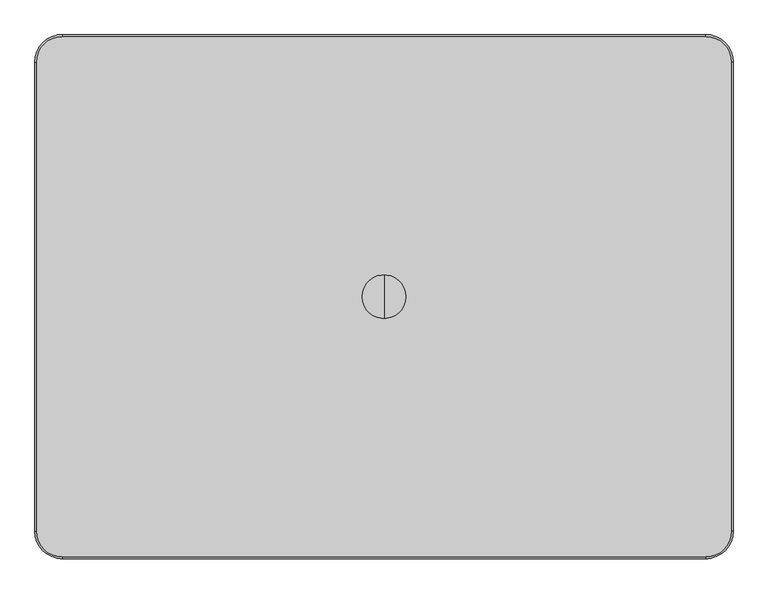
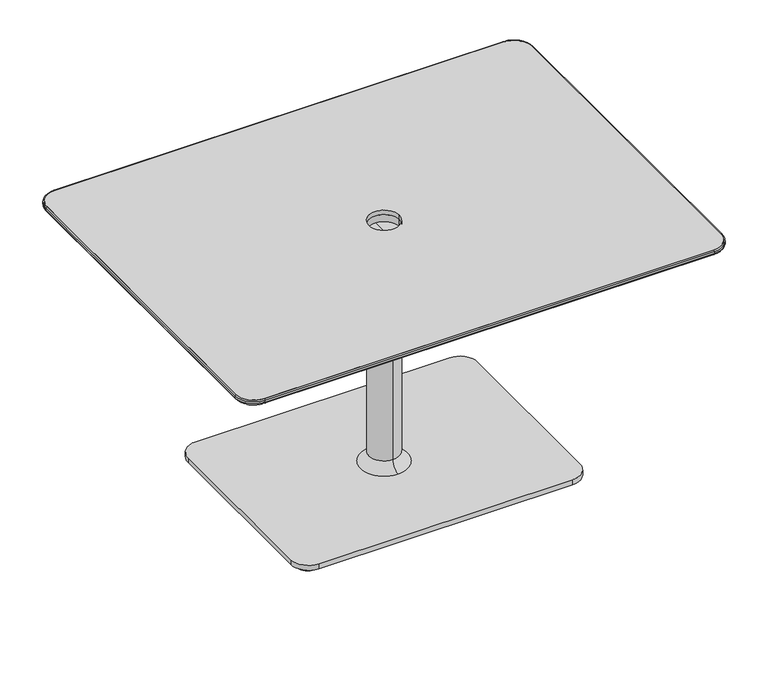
"""IFC4 building model written with IfcOpenShell, lengths in millimetres: furniture geometry, Steelcase Coalesse - Lagunitas - Table - Work (1) : 26H x 36D x 48W."""

from ifc_helpers import new_model, si_unit, point, frame, frame_2d, origin, origin_with_axes, place, context, project, spatial, polyline, circle_curve, ellipse_curve, trimmed, segment, composite_curve, outline, extrude, source, transform, mapped, element, save
from ifc_brep_helpers import plane_surface, cylinder_surface, revolved_surface, spline_surface, advanced_brep


def furniture_4407a506(model_context):
    return source(origin(), model_context, "Body", "SolidModel", [
        advanced_brep(
        [(606.8570059, 409.7063839, 648.3724172), (562.4070059, 454.1563839, 648.3724172), (-561.7969941, 454.1563839, 648.3724172), (-606.2469941, 409.7063839, 648.3724172), (-606.2469941, -409.7063839, 648.3724172), (-561.7969941, -454.1563839, 648.3724172), (562.4070059, -454.1563839, 648.3724172), (606.8570059, -409.7063839, 648.3724172), (38.4050059, 0.0, 648.3724172), (-37.7949941, 0.0, 648.3724172), (539.0389826, 386.3390054, 630.3099277), (539.0389826, -386.3390054, 630.3099277), (-538.4289709, -386.3390054, 630.3099277), (-538.4289709, 386.3390054, 630.3099277), (-37.7949941, 0.0, 630.3099277), (38.4050059, 0.0, 630.3099277)],
        [
            (0, 1, circle_curve(frame((562.4070059, 409.7063839, 648.3724172), z_axis=(0.0, 0.0, 1.0), x_axis=(1.0, 0.0, 0.0)), 44.45)),
            (1, 2),
            (2, 3, circle_curve(frame((-561.7969941, 409.7063839, 648.3724172), z_axis=(0.0, 0.0, 1.0), x_axis=(1.0, 0.0, 0.0)), 44.45)),
            (3, 4),
            (4, 5, circle_curve(frame((-561.7969941, -409.7063839, 648.3724172), z_axis=(0.0, 0.0, 1.0), x_axis=(1.0, 0.0, 0.0)), 44.45)),
            (5, 6),
            (6, 7, circle_curve(frame((562.4070059, -409.7063839, 648.3724172), z_axis=(0.0, 0.0, 1.0), x_axis=(1.0, 0.0, 0.0)), 44.45)),
            (7, 0),
            (8, 9, circle_curve(frame((0.3050059, 0.0, 648.3724172), z_axis=(0.0, 0.0, -1.0), x_axis=(1.0, 0.0, 0.0)), 38.1)),
            (9, 8, circle_curve(frame((0.3050059, 0.0, 648.3724172), z_axis=(0.0, 0.0, -1.0), x_axis=(1.0, 0.0, 0.0)), 38.1)),
            (10, 11),
            (11, 12),
            (12, 13),
            (13, 10),
            (14, 15, circle_curve(frame((0.3050059, 0.0, 630.3099277), z_axis=(0.0, 0.0, 1.0), x_axis=(1.0, 0.0, 0.0)), 38.1)),
            (15, 14, circle_curve(frame((0.3050059, 0.0, 630.3099277), z_axis=(0.0, 0.0, 1.0), x_axis=(1.0, 0.0, 0.0)), 38.1)),
            (0, 10),
            (10, 1),
            (13, 2),
            (13, 3),
            (12, 4),
            (12, 5),
            (11, 6),
            (11, 7),
            (14, 9),
            (8, 15),
        ],
        [
            plane_surface(frame((0.3050059, 0.0, 648.3724172), z_axis=(0.0, 0.0, 1.0), x_axis=(-1.0, 0.0, 0.0))),
            plane_surface(frame((0.3050059, 0.0, 630.3099277), z_axis=(0.0, 0.0, -1.0), x_axis=(-1.0, 0.0, 0.0))),
            spline_surface(2, 1, [[(539.0389826, 386.3390054, 630.3099277), (606.8570059, 409.7063839, 648.3724172)], [(539.0389826, 386.3390054, 630.3099277), (606.8570059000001, 454.15638390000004, 648.3724172)], [(539.0389826, 386.3390054, 630.3099277), (562.4070059, 454.1563839, 648.3724172)]], [3, 3], [2, 2], [0.0, 1.0], [0.0, 1.0], weights=[[1.0, 1.0], [0.7071067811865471, 0.7071067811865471], [1.0, 1.0]]),
            plane_surface(frame((0.3050059, 386.3390054, 630.3099277), z_axis=(0.0, 0.2573680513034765, -0.9663134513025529), x_axis=(-1.0, 0.0, 0.0))),
            spline_surface(2, 1, [[(-538.4289709, 386.3390054, 630.3099277), (-561.7969941, 454.1563839, 648.3724172)], [(-538.4289709, 386.3390054, 630.3099277), (-606.2469940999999, 454.1563838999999, 648.3724172)], [(-538.4289709, 386.3390054, 630.3099277), (-606.2469941, 409.7063839, 648.3724172)]], [3, 3], [2, 2], [0.0, 1.0], [0.0, 1.0], weights=[[1.0, 1.0], [0.707106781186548, 0.707106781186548], [1.0, 1.0]]),
            plane_surface(frame((-538.4289709, 0.0, 630.3099277), z_axis=(-0.2573657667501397, 0.0, -0.966314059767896), x_axis=(0.0, -1.0, 0.0))),
            spline_surface(2, 1, [[(-538.4289709, -386.3390054, 630.3099277), (-606.2469941, -409.7063839, 648.3724172)], [(-538.4289709, -386.3390054, 630.3099277), (-606.2469941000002, -454.15638390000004, 648.3724172)], [(-538.4289709, -386.3390054, 630.3099277), (-561.7969941, -454.1563839, 648.3724172)]], [3, 3], [2, 2], [0.0, 1.0], [0.0, 1.0], weights=[[1.0, 1.0], [0.7071067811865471, 0.7071067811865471], [1.0, 1.0]]),
            plane_surface(frame((0.3050059, -386.3390054, 630.3099277), z_axis=(0.0, -0.2573680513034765, -0.9663134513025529), x_axis=(1.0, 0.0, 0.0))),
            spline_surface(2, 1, [[(539.0389826, -386.3390054, 630.3099277), (562.4070059, -454.1563839, 648.3724172)], [(539.0389826, -386.3390054, 630.3099277), (606.8570058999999, -454.1563838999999, 648.3724172)], [(539.0389826, -386.3390054, 630.3099277), (606.8570059, -409.7063839, 648.3724172)]], [3, 3], [2, 2], [0.0, 1.0], [0.0, 1.0], weights=[[1.0, 1.0], [0.707106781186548, 0.707106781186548], [1.0, 1.0]]),
            plane_surface(frame((539.0389826, 0.0, 630.3099277), z_axis=(0.2573657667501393, 0.0, -0.9663140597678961), x_axis=(0.0, 1.0, 0.0))),
            revolved_surface(polyline([(38.4050059, 0.0, 648.3724172), (38.4050059, 0.0, 630.3099277)]), (0.3050059, 0.0, 622.3), (0.0, 0.0, 1.0)),
        ],
        [
            (0, [[1, 2, 3, 4, 5, 6, 7, 8], [9, 10]]),
            (1, [[11, 12, 13, 14], [15, 16]]),
            (2, [[-1, 17, 18]]),
            (3, [[-2, -18, -14, 19]]),
            (4, [[-3, -19, 20]]),
            (5, [[-4, -20, -13, 21]]),
            (6, [[-5, -21, 22]]),
            (7, [[-6, -22, -12, 23]]),
            (8, [[-7, -23, 24]]),
            (9, [[-8, -24, -11, -17]]),
            (10, [[25, -9, 26, -15]]),
            (10, [[-25, -16, -26, -10]]),
        ],
    ),
        extrude(outline(composite_curve([segment(trimmed(circle_curve(frame_2d((562.4070059, 409.7063839)), 44.45), [point((562.4070059, 454.1563839))], [point((606.8570059, 409.7063839))], False, "CARTESIAN"), True, "CONTINUOUS"), segment(polyline([(606.8570059, 409.7063839), (606.8570059, -409.7063839)]), True, "CONTINUOUS"), segment(trimmed(circle_curve(frame_2d((562.4070059, -409.7063839)), 44.45), [point((606.8570059, -409.7063839))], [point((562.4070059, -454.1563839))], False, "CARTESIAN"), True, "CONTINUOUS"), segment(polyline([(562.4070059, -454.1563839), (-561.7969941, -454.1563839)]), True, "CONTINUOUS"), segment(trimmed(circle_curve(frame_2d((-561.7969941, -409.7063839)), 44.45), [point((-561.7969941, -454.1563839))], [point((-606.2469941, -409.7063839))], False, "CARTESIAN"), True, "CONTINUOUS"), segment(polyline([(-606.2469941, -409.7063839), (-606.2469941, 409.7063839)]), True, "CONTINUOUS"), segment(trimmed(circle_curve(frame_2d((-561.7969941, 409.7063839)), 44.45), [point((-606.2469941, 409.7063839))], [point((-561.7969941, 454.1563839))], False, "CARTESIAN"), True, "CONTINUOUS"), segment(polyline([(-561.7969941, 454.1563839), (562.4070059, 454.1563839)]), True, "CONTINUOUS")], self_intersect=False), holes=[composite_curve([segment(trimmed(circle_curve(frame_2d((0.3050059, 0.0)), 38.1), [point((-37.7949941, 0.0))], [point((38.4050059, 0.0))], True, "CARTESIAN"), True, "CONTINUOUS"), segment(trimmed(circle_curve(frame_2d((0.3050059, 0.0)), 38.1), [point((38.4050059, 0.0))], [point((-37.7949941, 0.0))], True, "CARTESIAN"), True, "CONTINUOUS")], self_intersect=False)]), frame((0.0, 0.0, 648.3724172), z_axis=(0.0, 0.0, 1.0), x_axis=(1.0, 0.0, 0.0)), (0.0, 0.0, 1.0), 12.0275828),
        extrude(outline(composite_curve([segment(trimmed(circle_curve(frame_2d((-321.7443146, 226.8029495)), 25.4), [point((-347.1443146, 226.8029495))], [point((-296.3443146, 226.8029495))], False, "CARTESIAN"), True, "CONTINUOUS"), segment(trimmed(circle_curve(frame_2d((-321.7443146, 226.8029495)), 25.4), [point((-296.3443146, 226.8029495))], [point((-347.1443146, 226.8029495))], False, "CARTESIAN"), True, "CONTINUOUS")], self_intersect=False)), origin_with_axes(), (0.0, 0.0, 1.0), 10.6571495),
        extrude(outline(composite_curve([segment(trimmed(circle_curve(frame_2d((322.3543263, 226.8029495)), 25.4), [point((296.9543263, 226.8029495))], [point((347.7543263, 226.8029495))], False, "CARTESIAN"), True, "CONTINUOUS"), segment(trimmed(circle_curve(frame_2d((322.3543263, 226.8029495)), 25.4), [point((347.7543263, 226.8029495))], [point((296.9543263, 226.8029495))], False, "CARTESIAN"), True, "CONTINUOUS")], self_intersect=False)), origin_with_axes(), (0.0, 0.0, 1.0), 10.6571495),
        extrude(outline(composite_curve([segment(trimmed(circle_curve(frame_2d((322.3543263, -226.8029495)), 25.4), [point((296.9543263, -226.8029495))], [point((347.7543263, -226.8029495))], False, "CARTESIAN"), True, "CONTINUOUS"), segment(trimmed(circle_curve(frame_2d((322.3543263, -226.8029495)), 25.4), [point((347.7543263, -226.8029495))], [point((296.9543263, -226.8029495))], False, "CARTESIAN"), True, "CONTINUOUS")], self_intersect=False)), origin_with_axes(), (0.0, 0.0, 1.0), 10.6571495),
        extrude(outline(composite_curve([segment(trimmed(circle_curve(frame_2d((-321.7443146, -226.8029495)), 25.4), [point((-347.1443146, -226.8029495))], [point((-296.3443146, -226.8029495))], False, "CARTESIAN"), True, "CONTINUOUS"), segment(trimmed(circle_curve(frame_2d((-321.7443146, -226.8029495)), 25.4), [point((-296.3443146, -226.8029495))], [point((-347.1443146, -226.8029495))], False, "CARTESIAN"), True, "CONTINUOUS")], self_intersect=False)), origin_with_axes(), (0.0, 0.0, 1.0), 10.6571495),
        extrude(outline(composite_curve([segment(trimmed(circle_curve(frame_2d((317.8050059, 222.2481833)), 44.45), [point((317.8050059, 266.6981833))], [point((362.2550059, 222.2481833))], False, "CARTESIAN"), True, "CONTINUOUS"), segment(polyline([(362.2550059, 222.2481833), (362.2550059, -222.2481833)]), True, "CONTINUOUS"), segment(trimmed(circle_curve(frame_2d((317.8050059, -222.2481833)), 44.45), [point((362.2550059, -222.2481833))], [point((317.8050059, -266.6981833))], False, "CARTESIAN"), True, "CONTINUOUS"), segment(polyline([(317.8050059, -266.6981833), (-317.1949941, -266.6981833)]), True, "CONTINUOUS"), segment(trimmed(circle_curve(frame_2d((-317.1949941, -222.2481833)), 44.45), [point((-317.1949941, -266.6981833))], [point((-361.6449941, -222.2481833))], False, "CARTESIAN"), True, "CONTINUOUS"), segment(polyline([(-361.6449941, -222.2481833), (-361.6449941, 222.2481833)]), True, "CONTINUOUS"), segment(trimmed(circle_curve(frame_2d((-317.1949941, 222.2481833)), 44.45), [point((-361.6449941, 222.2481833))], [point((-317.1949941, 266.6981833))], False, "CARTESIAN"), True, "CONTINUOUS"), segment(polyline([(-317.1949941, 266.6981833), (317.8050059, 266.6981833)]), True, "CONTINUOUS")], self_intersect=False)), frame((0.0, 0.0, 10.6571495), z_axis=(0.0, 0.0, 1.0), x_axis=(1.0, 0.0, 0.0)), (0.0, 0.0, 1.0), 12.7000004),
        advanced_brep(
        [(-609.2930954, 409.7063839, 652.1656816), (-561.7969941, 457.2024852, 652.1656816), (-561.7969941, 454.1563839, 648.3724172), (-606.2469941, 409.7063839, 648.3724172), (-609.2930954, 409.7063839, 657.3538988), (-561.7969941, 457.2024852, 657.3538988), (-606.2469941, 409.7063839, 660.4), (-561.7969941, 454.1563839, 660.4), (-606.2469941, -409.7063839, 648.3724172), (-609.2930954, -409.7063839, 652.1656816), (-609.2930954, -409.7063839, 657.3538988), (-606.2469941, -409.7063839, 660.4), (-561.7969941, -457.2024852, 652.1656816), (-561.7969941, -454.1563839, 648.3724172), (-561.7969941, -457.2024852, 657.3538988), (-561.7969941, -454.1563839, 660.4), (562.4070059, -454.1563839, 648.3724172), (562.4070059, -457.2024852, 652.1656816), (562.4070059, -457.2024852, 657.3538988), (562.4070059, -454.1563839, 660.4), (609.9031071, -409.7063839, 652.1656816), (606.8570059, -409.7063839, 648.3724172), (609.9031071, -409.7063839, 657.3538988), (606.8570059, -409.7063839, 660.4), (606.8570059, 409.7063839, 648.3724172), (609.9031071, 409.7063839, 652.1656816), (609.9031071, 409.7063839, 657.3538988), (606.8570059, 409.7063839, 660.4), (562.4070059, 457.2024852, 652.1656816), (562.4070059, 454.1563839, 648.3724172), (562.4070059, 457.2024852, 657.3538988), (562.4070059, 454.1563839, 660.4)],
        [
            (0, 1, circle_curve(frame((-561.7969941, 409.7063839, 652.1656816), z_axis=(0.0, 0.0, -1.0), x_axis=(0.0, 1.0, 0.0)), 47.4961012)),
            (1, 2, circle_curve(frame((-561.7969941, 453.3175869, 652.1656816), z_axis=(-1.0, 0.0, 0.0), x_axis=(0.0, -1.0, 0.0)), 3.8848983)),
            (2, 3, circle_curve(frame((-561.7969941, 409.7063839, 648.3724172), z_axis=(0.0, 0.0, 1.0), x_axis=(0.0, 1.0, 0.0)), 44.45)),
            (3, 0, circle_curve(frame((-605.4081971, 409.7063839, 652.1656816), z_axis=(0.0, 1.0, 0.0), x_axis=(1.0, 0.0, 0.0)), 3.8848983)),
            (4, 5, circle_curve(frame((-561.7969941, 409.7063839, 657.3538988), z_axis=(0.0, 0.0, -1.0), x_axis=(0.0, 1.0, 0.0)), 47.4961012)),
            (5, 1),
            (0, 4),
            (6, 7, circle_curve(frame((-561.7969941, 409.7063839, 660.4), z_axis=(0.0, 0.0, -1.0), x_axis=(0.0, 1.0, 0.0)), 44.45)),
            (7, 5, circle_curve(frame((-561.7969941, 454.1563839, 657.3538988), z_axis=(-1.0, 0.0, 0.0), x_axis=(0.0, -1.0, 0.0)), 3.0461012)),
            (4, 6, circle_curve(frame((-606.2469941, 409.7063839, 657.3538988), z_axis=(0.0, 1.0, 0.0), x_axis=(1.0, 0.0, 0.0)), 3.0461012)),
            (2, 7),
            (6, 3),
            (3, 8),
            (8, 9, circle_curve(frame((-605.4081971, -409.7063839, 652.1656816), z_axis=(0.0, 1.0, 0.0), x_axis=(1.0, 0.0, 0.0)), 3.8848983)),
            (9, 0),
            (9, 10),
            (10, 4),
            (10, 11, circle_curve(frame((-606.2469941, -409.7063839, 657.3538988), z_axis=(0.0, 1.0, 0.0), x_axis=(1.0, 0.0, 0.0)), 3.0461012)),
            (11, 6),
            (11, 8),
            (12, 9, circle_curve(frame((-561.7969941, -409.7063839, 652.1656816), z_axis=(0.0, 0.0, -1.0), x_axis=(-1.0, 0.0, 0.0)), 47.4961012)),
            (8, 13, circle_curve(frame((-561.7969941, -409.7063839, 648.3724172), z_axis=(0.0, 0.0, 1.0), x_axis=(-1.0, 0.0, 0.0)), 44.45)),
            (13, 12, circle_curve(frame((-561.7969941, -453.3175869, 652.1656816), z_axis=(-1.0, 0.0, 0.0), x_axis=(0.0, 1.0, 0.0)), 3.8848983)),
            (14, 10, circle_curve(frame((-561.7969941, -409.7063839, 657.3538988), z_axis=(0.0, 0.0, -1.0), x_axis=(-1.0, 0.0, 0.0)), 47.4961012)),
            (12, 14),
            (15, 11, circle_curve(frame((-561.7969941, -409.7063839, 660.4), z_axis=(0.0, 0.0, -1.0), x_axis=(-1.0, 0.0, 0.0)), 44.45)),
            (14, 15, circle_curve(frame((-561.7969941, -454.1563839, 657.3538988), z_axis=(-1.0, 0.0, 0.0), x_axis=(0.0, 1.0, 0.0)), 3.0461012)),
            (15, 13),
            (13, 16),
            (16, 17, circle_curve(frame((562.4070059, -453.3175869, 652.1656816), z_axis=(-1.0, 0.0, 0.0), x_axis=(0.0, 1.0, 0.0)), 3.8848983)),
            (17, 12),
            (17, 18),
            (18, 14),
            (18, 19, circle_curve(frame((562.4070059, -454.1563839, 657.3538988), z_axis=(-1.0, 0.0, 0.0), x_axis=(0.0, 1.0, 0.0)), 3.0461012)),
            (19, 15),
            (19, 16),
            (20, 17, circle_curve(frame((562.4070059, -409.7063839, 652.1656816), z_axis=(0.0, 0.0, -1.0), x_axis=(0.0, -1.0, 0.0)), 47.4961012)),
            (16, 21, circle_curve(frame((562.4070059, -409.7063839, 648.3724172), z_axis=(0.0, 0.0, 1.0), x_axis=(0.0, -1.0, 0.0)), 44.45)),
            (21, 20, circle_curve(frame((606.0182088, -409.7063839, 652.1656816), z_axis=(0.0, -1.0, 0.0), x_axis=(-1.0, 0.0, 0.0)), 3.8848983)),
            (22, 18, circle_curve(frame((562.4070059, -409.7063839, 657.3538988), z_axis=(0.0, 0.0, -1.0), x_axis=(0.0, -1.0, 0.0)), 47.4961012)),
            (20, 22),
            (23, 19, circle_curve(frame((562.4070059, -409.7063839, 660.4), z_axis=(0.0, 0.0, -1.0), x_axis=(0.0, -1.0, 0.0)), 44.45)),
            (22, 23, circle_curve(frame((606.8570059, -409.7063839, 657.3538988), z_axis=(0.0, -1.0, 0.0), x_axis=(-1.0, 0.0, 0.0)), 3.0461012)),
            (23, 21),
            (21, 24),
            (24, 25, circle_curve(frame((606.0182088, 409.7063839, 652.1656816), z_axis=(0.0, -1.0, 0.0), x_axis=(-1.0, 0.0, 0.0)), 3.8848983)),
            (25, 20),
            (25, 26),
            (26, 22),
            (26, 27, circle_curve(frame((606.8570059, 409.7063839, 657.3538988), z_axis=(0.0, -1.0, 0.0), x_axis=(-1.0, 0.0, 0.0)), 3.0461012)),
            (27, 23),
            (27, 24),
            (28, 25, circle_curve(frame((562.4070059, 409.7063839, 652.1656816), z_axis=(0.0, 0.0, -1.0), x_axis=(1.0, 0.0, 0.0)), 47.4961012)),
            (24, 29, circle_curve(frame((562.4070059, 409.7063839, 648.3724172), z_axis=(0.0, 0.0, 1.0), x_axis=(1.0, 0.0, 0.0)), 44.45)),
            (29, 28, circle_curve(frame((562.4070059, 453.3175869, 652.1656816), z_axis=(1.0, 0.0, 0.0), x_axis=(0.0, -1.0, 0.0)), 3.8848983)),
            (30, 26, circle_curve(frame((562.4070059, 409.7063839, 657.3538988), z_axis=(0.0, 0.0, -1.0), x_axis=(1.0, 0.0, 0.0)), 47.4961012)),
            (28, 30),
            (31, 27, circle_curve(frame((562.4070059, 409.7063839, 660.4), z_axis=(0.0, 0.0, -1.0), x_axis=(1.0, 0.0, 0.0)), 44.45)),
            (30, 31, circle_curve(frame((562.4070059, 454.1563839, 657.3538988), z_axis=(1.0, 0.0, 0.0), x_axis=(0.0, -1.0, 0.0)), 3.0461012)),
            (31, 29),
            (29, 2),
            (1, 28),
            (5, 30),
            (7, 31),
        ],
        [
            revolved_surface(trimmed(ellipse_curve(frame((-561.7969941, 453.3175869, 652.1656816), z_axis=(1.0, 0.0, 0.0), x_axis=(0.0, -1.0, 0.0)), 3.8848983, 3.8848983), [point((-561.7969941, 454.1563839, 648.3724172))], [point((-561.7969941, 457.2024852, 652.1656816))], True, "CARTESIAN"), (-561.7969941, 409.7063839, 0.0), (0.0, 0.0, 1.0)),
            cylinder_surface(frame((-561.7969941, 409.7063839, 0.0), z_axis=(0.0, 0.0, 1.0), x_axis=(0.0, 1.0, 0.0)), 47.4961012),
            revolved_surface(trimmed(ellipse_curve(frame((-561.7969941, 454.1563839, 657.3538988), z_axis=(1.0, 0.0, 0.0), x_axis=(0.0, -1.0, 0.0)), 3.0461012, 3.0461012), [point((-561.7969941, 457.2024852, 657.3538988))], [point((-561.7969941, 454.1563839, 660.4))], True, "CARTESIAN"), (-561.7969941, 409.7063839, 0.0), (0.0, 0.0, 1.0)),
            revolved_surface(polyline([(-561.7969941, 454.1563839, 660.4), (-561.7969941, 454.1563839, 648.3724172)]), (-561.7969941, 409.7063839, 0.0), (0.0, 0.0, 1.0)),
            cylinder_surface(frame((-605.4081971, 409.7063839, 652.1656816), z_axis=(0.0, 1.0, 0.0), x_axis=(1.0, 0.0, 0.0)), 3.8848983),
            plane_surface(frame((-609.2930954, 409.7063839, 652.1656816), z_axis=(-1.0, 0.0, 0.0), x_axis=(0.0, -1.0, 0.0))),
            cylinder_surface(frame((-606.2469941, 409.7063839, 657.3538988), z_axis=(0.0, 1.0, 0.0), x_axis=(1.0, 0.0, 0.0)), 3.0461012),
            plane_surface(frame((-606.2469941, 409.7063839, 660.4), z_axis=(1.0, 0.0, 0.0), x_axis=(0.0, -1.0, 0.0))),
            revolved_surface(trimmed(ellipse_curve(frame((-605.4081971, -409.7063839, 652.1656816), z_axis=(0.0, 1.0, 0.0), x_axis=(1.0, 0.0, 0.0)), 3.8848983, 3.8848983), [point((-606.2469941, -409.7063839, 648.3724172))], [point((-609.2930954, -409.7063839, 652.1656816))], True, "CARTESIAN"), (-561.7969941, -409.7063839, 0.0), (0.0, 0.0, 1.0)),
            cylinder_surface(frame((-561.7969941, -409.7063839, 0.0), z_axis=(0.0, 0.0, 1.0), x_axis=(-1.0, 0.0, 0.0)), 47.4961012),
            revolved_surface(trimmed(ellipse_curve(frame((-606.2469941, -409.7063839, 657.3538988), z_axis=(0.0, 1.0, 0.0), x_axis=(1.0, 0.0, 0.0)), 3.0461012, 3.0461012), [point((-609.2930954, -409.7063839, 657.3538988))], [point((-606.2469941, -409.7063839, 660.4))], True, "CARTESIAN"), (-561.7969941, -409.7063839, 0.0), (0.0, 0.0, 1.0)),
            revolved_surface(polyline([(-606.2469941, -409.7063839, 660.4), (-606.2469941, -409.7063839, 648.3724172)]), (-561.7969941, -409.7063839, 0.0), (0.0, 0.0, 1.0)),
            cylinder_surface(frame((-561.7969941, -453.3175869, 652.1656816), z_axis=(-1.0, 0.0, 0.0), x_axis=(0.0, 1.0, 0.0)), 3.8848983),
            plane_surface(frame((-561.7969941, -457.2024852, 652.1656816), z_axis=(0.0, -1.0, 0.0), x_axis=(1.0, 0.0, 0.0))),
            cylinder_surface(frame((-561.7969941, -454.1563839, 657.3538988), z_axis=(-1.0, 0.0, 0.0), x_axis=(0.0, 1.0, 0.0)), 3.0461012),
            plane_surface(frame((-561.7969941, -454.1563839, 660.4), z_axis=(0.0, 1.0, 0.0), x_axis=(1.0, 0.0, 0.0))),
            revolved_surface(trimmed(ellipse_curve(frame((562.4070059, -453.3175869, 652.1656816), z_axis=(-1.0, 0.0, 0.0), x_axis=(0.0, 1.0, 0.0)), 3.8848983, 3.8848983), [point((562.4070059, -454.1563839, 648.3724172))], [point((562.4070059, -457.2024852, 652.1656816))], True, "CARTESIAN"), (562.4070059, -409.7063839, 0.0), (0.0, 0.0, 1.0)),
            cylinder_surface(frame((562.4070059, -409.7063839, 0.0), z_axis=(0.0, 0.0, 1.0), x_axis=(0.0, -1.0, 0.0)), 47.4961012),
            revolved_surface(trimmed(ellipse_curve(frame((562.4070059, -454.1563839, 657.3538988), z_axis=(-1.0, 0.0, 0.0), x_axis=(0.0, 1.0, 0.0)), 3.0461012, 3.0461012), [point((562.4070059, -457.2024852, 657.3538988))], [point((562.4070059, -454.1563839, 660.4))], True, "CARTESIAN"), (562.4070059, -409.7063839, 0.0), (0.0, 0.0, 1.0)),
            revolved_surface(polyline([(562.4070059, -454.1563839, 660.4), (562.4070059, -454.1563839, 648.3724172)]), (562.4070059, -409.7063839, 0.0), (0.0, 0.0, 1.0)),
            cylinder_surface(frame((606.0182088, -409.7063839, 652.1656816), z_axis=(0.0, -1.0, 0.0), x_axis=(-1.0, 0.0, 0.0)), 3.8848983),
            plane_surface(frame((609.9031071, -409.7063839, 652.1656816), z_axis=(1.0, 0.0, 0.0), x_axis=(0.0, 1.0, 0.0))),
            cylinder_surface(frame((606.8570059, -409.7063839, 657.3538988), z_axis=(0.0, -1.0, 0.0), x_axis=(-1.0, 0.0, 0.0)), 3.0461012),
            plane_surface(frame((606.8570059, -409.7063839, 660.4), z_axis=(-1.0, 0.0, 0.0), x_axis=(0.0, 1.0, 0.0))),
            revolved_surface(trimmed(ellipse_curve(frame((606.0182088, 409.7063839, 652.1656816), z_axis=(0.0, -1.0, 0.0), x_axis=(-1.0, 0.0, 0.0)), 3.8848983, 3.8848983), [point((606.8570059, 409.7063839, 648.3724172))], [point((609.9031071, 409.7063839, 652.1656816))], True, "CARTESIAN"), (562.4070059, 409.7063839, 0.0), (0.0, 0.0, 1.0)),
            cylinder_surface(frame((562.4070059, 409.7063839, 0.0), z_axis=(0.0, 0.0, 1.0), x_axis=(1.0, 0.0, 0.0)), 47.4961012),
            revolved_surface(trimmed(ellipse_curve(frame((606.8570059, 409.7063839, 657.3538988), z_axis=(0.0, -1.0, 0.0), x_axis=(-1.0, 0.0, 0.0)), 3.0461012, 3.0461012), [point((609.9031071, 409.7063839, 657.3538988))], [point((606.8570059, 409.7063839, 660.4))], True, "CARTESIAN"), (562.4070059, 409.7063839, 0.0), (0.0, 0.0, 1.0)),
            revolved_surface(polyline([(606.8570059, 409.7063839, 660.4), (606.8570059, 409.7063839, 648.3724172)]), (562.4070059, 409.7063839, 0.0), (0.0, 0.0, 1.0)),
            cylinder_surface(frame((562.4070059, 453.3175869, 652.1656816), z_axis=(1.0, 0.0, 0.0), x_axis=(0.0, -1.0, 0.0)), 3.8848983),
            plane_surface(frame((562.4070059, 457.2024852, 652.1656816), z_axis=(0.0, 1.0, 0.0), x_axis=(-1.0, 0.0, 0.0))),
            cylinder_surface(frame((562.4070059, 454.1563839, 657.3538988), z_axis=(1.0, 0.0, 0.0), x_axis=(0.0, -1.0, 0.0)), 3.0461012),
            plane_surface(frame((562.4070059, 454.1563839, 660.4), z_axis=(0.0, -1.0, 0.0), x_axis=(-1.0, 0.0, 0.0))),
        ],
        [
            (0, [[1, 2, 3, 4]]),
            (1, [[5, 6, -1, 7]]),
            (2, [[8, 9, -5, 10]]),
            (3, [[-3, 11, -8, 12]]),
            (4, [[-4, 13, 14, 15]]),
            (5, [[-7, -15, 16, 17]]),
            (6, [[-10, -17, 18, 19]]),
            (7, [[-12, -19, 20, -13]]),
            (8, [[21, -14, 22, 23]]),
            (9, [[24, -16, -21, 25]]),
            (10, [[26, -18, -24, 27]]),
            (11, [[-22, -20, -26, 28]]),
            (12, [[-23, 29, 30, 31]]),
            (13, [[-25, -31, 32, 33]]),
            (14, [[-27, -33, 34, 35]]),
            (15, [[-28, -35, 36, -29]]),
            (16, [[37, -30, 38, 39]]),
            (17, [[40, -32, -37, 41]]),
            (18, [[42, -34, -40, 43]]),
            (19, [[-38, -36, -42, 44]]),
            (20, [[-39, 45, 46, 47]]),
            (21, [[-41, -47, 48, 49]]),
            (22, [[-43, -49, 50, 51]]),
            (23, [[-44, -51, 52, -45]]),
            (24, [[53, -46, 54, 55]]),
            (25, [[56, -48, -53, 57]]),
            (26, [[58, -50, -56, 59]]),
            (27, [[-54, -52, -58, 60]]),
            (28, [[-55, 61, -2, 62]]),
            (29, [[-57, -62, -6, 63]]),
            (30, [[-59, -63, -9, 64]]),
            (31, [[-60, -64, -11, -61]]),
        ],
    ),
        advanced_brep(
        [(0.3050059, -37.9287895, 500.8567695), (0.3050059, 37.9287895, 500.8567695), (0.3050059, 37.9287895, 50.0429711), (0.3050059, -37.9287895, 50.0429711), (0.3050059, -59.3395816, 538.8698908), (0.3050059, 59.3395816, 538.8698908), (0.3050059, -197.9068019, 622.8534968), (0.3050059, 197.9068019, 622.8534968), (0.3050059, -212.4265152, 626.9101307), (0.3050059, 212.4265152, 626.9101307), (0.3050059, -226.4292749, 626.9101307), (0.3050059, 226.4292749, 626.9101307), (0.3050059, -228.4774392, 630.3099277), (0.3050059, 228.4774392, 630.3099277), (0.3050059, 0.0, 630.3099277), (0.3050059, -60.2304855, 23.3571499), (0.3050059, 60.2304855, 23.3571499), (0.3050059, 0.0, 23.3571499)],
        [
            (0, 1, circle_curve(frame((0.3050059, 0.0, 500.8567695), z_axis=(0.0, 0.0, -1.0), x_axis=(0.0, 1.0, 0.0)), 37.9287895)),
            (1, 2),
            (2, 3, circle_curve(frame((0.3050059, 0.0, 50.0429711), z_axis=(0.0, 0.0, 1.0), x_axis=(0.0, 1.0, 0.0)), 37.9287895)),
            (3, 0),
            (1, 0, circle_curve(frame((0.3050059, 0.0, 500.8567695), z_axis=(0.0, 0.0, -1.0), x_axis=(0.0, 1.0, 0.0)), 37.9287895)),
            (3, 2, circle_curve(frame((0.3050059, 0.0, 50.0429711), z_axis=(0.0, 0.0, 1.0), x_axis=(0.0, 1.0, 0.0)), 37.9287895)),
            (4, 5, circle_curve(frame((0.3050059, 0.0, 538.8698908), z_axis=(0.0, 0.0, -1.0), x_axis=(0.0, 1.0, 0.0)), 59.3395816)),
            (5, 1, circle_curve(frame((0.3050059, 82.3787895, 500.8567695), z_axis=(1.0, 0.0, 0.0), x_axis=(0.0, 1.0, 0.0)), 44.45)),
            (0, 4, circle_curve(frame((0.3050059, -82.3787895, 500.8567695), z_axis=(1.0, 0.0, 0.0), x_axis=(0.0, -1.0, 0.0)), 44.45)),
            (5, 4, circle_curve(frame((0.3050059, 0.0, 538.8698908), z_axis=(0.0, 0.0, -1.0), x_axis=(0.0, 1.0, 0.0)), 59.3395816)),
            (6, 7, circle_curve(frame((0.3050059, 0.0, 622.8534968), z_axis=(0.0, 0.0, -1.0), x_axis=(0.0, 1.0, 0.0)), 197.9068019)),
            (7, 5),
            (4, 6),
            (7, 6, circle_curve(frame((0.3050059, 0.0, 622.8534968), z_axis=(0.0, 0.0, -1.0), x_axis=(0.0, 1.0, 0.0)), 197.9068019)),
            (8, 9, circle_curve(frame((0.3050059, 0.0, 626.9101307), z_axis=(0.0, 0.0, -1.0), x_axis=(0.0, 1.0, 0.0)), 212.4265152)),
            (9, 7, circle_curve(frame((0.3050059, 212.4265152, 598.8969605), z_axis=(1.0, 0.0, 0.0), x_axis=(0.0, 1.0, 0.0)), 28.0131702)),
            (6, 8, circle_curve(frame((0.3050059, -212.4265152, 598.8969605), z_axis=(1.0, 0.0, 0.0), x_axis=(0.0, -1.0, 0.0)), 28.0131702)),
            (9, 8, circle_curve(frame((0.3050059, 0.0, 626.9101307), z_axis=(0.0, 0.0, -1.0), x_axis=(0.0, 1.0, 0.0)), 212.4265152)),
            (10, 11, circle_curve(frame((0.3050059, 0.0, 626.9101307), z_axis=(0.0, 0.0, -1.0), x_axis=(0.0, 1.0, 0.0)), 226.4292749)),
            (11, 9),
            (8, 10),
            (11, 10, circle_curve(frame((0.3050059, 0.0, 626.9101307), z_axis=(0.0, 0.0, -1.0), x_axis=(0.0, 1.0, 0.0)), 226.4292749)),
            (12, 13, circle_curve(frame((0.3050059, 0.0, 630.3099277), z_axis=(0.0, 0.0, -1.0), x_axis=(0.0, 1.0, 0.0)), 228.4774392)),
            (13, 11, circle_curve(frame((0.3050059, 226.4292749, 629.2269744), z_axis=(-1.0, 0.0, 0.0), x_axis=(0.0, 1.0, 0.0)), 2.3168437)),
            (10, 12, circle_curve(frame((0.3050059, -226.4292749, 629.2269744), z_axis=(-1.0, 0.0, 0.0), x_axis=(0.0, -1.0, 0.0)), 2.3168437)),
            (13, 12, circle_curve(frame((0.3050059, 0.0, 630.3099277), z_axis=(0.0, 0.0, -1.0), x_axis=(0.0, 1.0, 0.0)), 228.4774392)),
            (14, 13),
            (12, 14),
            (15, 16, circle_curve(frame((0.3050059, 0.0, 23.3571499), z_axis=(0.0, 0.0, -1.0), x_axis=(0.0, 1.0, 0.0)), 60.2304855)),
            (16, 17),
            (17, 15),
            (16, 15, circle_curve(frame((0.3050059, 0.0, 23.3571499), z_axis=(0.0, 0.0, -1.0), x_axis=(0.0, 1.0, 0.0)), 60.2304855)),
            (2, 16, circle_curve(frame((0.3050059, 65.045532, 50.0429711), z_axis=(1.0, 0.0, 0.0), x_axis=(0.0, 1.0, 0.0)), 27.1167425)),
            (15, 3, circle_curve(frame((0.3050059, -65.045532, 50.0429711), z_axis=(1.0, 0.0, 0.0), x_axis=(0.0, -1.0, 0.0)), 27.1167425)),
        ],
        [
            cylinder_surface(frame((0.3050059, 0.0, 738.2745102), z_axis=(0.0, 0.0, 1.0), x_axis=(0.0, 1.0, 0.0)), 37.9287895),
            revolved_surface(trimmed(ellipse_curve(frame((0.3050059, 82.3787895, 500.8567695), z_axis=(-1.0, 0.0, 0.0), x_axis=(0.0, 1.0, 0.0)), 44.45, 44.45), [point((0.3050059, 37.9287895, 500.8567695))], [point((0.3050059, 59.3395816, 538.8698908))], True, "CARTESIAN"), (0.3050059, 0.0, 738.2745102), (0.0, 0.0, 1.0)),
            revolved_surface(polyline([(0.3050059, 59.3395816, 538.8698908), (0.3050059, 197.9068019, 622.8534968)]), (0.3050059, 0.0, 738.2745102), (0.0, 0.0, 1.0)),
            revolved_surface(trimmed(ellipse_curve(frame((0.3050059, 212.4265152, 598.8969605), z_axis=(-1.0, 0.0, 0.0), x_axis=(0.0, 1.0, 0.0)), 28.0131702, 28.0131702), [point((0.3050059, 197.9068019, 622.8534968))], [point((0.3050059, 212.4265152, 626.9101307))], True, "CARTESIAN"), (0.3050059, 0.0, 738.2745102), (0.0, 0.0, 1.0)),
            plane_surface(frame((0.3050059, 0.0, 626.9101307), z_axis=(0.0, 0.0, -1.0), x_axis=(0.0, 1.0, 0.0))),
            revolved_surface(trimmed(ellipse_curve(frame((0.3050059, 226.4292749, 629.2269744), z_axis=(1.0, 0.0, 0.0), x_axis=(0.0, 1.0, 0.0)), 2.3168437, 2.3168437), [point((0.3050059, 226.4292749, 626.9101307))], [point((0.3050059, 228.4774392, 630.3099277))], True, "CARTESIAN"), (0.3050059, 0.0, 738.2745102), (0.0, 0.0, 1.0)),
            plane_surface(frame((0.3050059, 0.0, 630.3099277), z_axis=(0.0, 0.0, 1.0), x_axis=(0.0, 1.0, 0.0))),
            plane_surface(frame((0.3050059, 0.0, 23.3571499), z_axis=(0.0, 0.0, -1.0), x_axis=(0.0, 1.0, 0.0))),
            revolved_surface(trimmed(ellipse_curve(frame((0.3050059, 65.045532, 50.0429711), z_axis=(-1.0, 0.0, 0.0), x_axis=(0.0, 1.0, 0.0)), 27.1167425, 27.1167425), [point((0.3050059, 60.2304855, 23.3571499))], [point((0.3050059, 37.9287895, 50.0429711))], True, "CARTESIAN"), (0.3050059, 0.0, 738.2745102), (0.0, 0.0, 1.0)),
        ],
        [
            (0, [[1, 2, 3, 4]]),
            (0, [[5, -4, 6, -2]]),
            (1, [[7, 8, -1, 9]]),
            (1, [[10, -9, -5, -8]]),
            (2, [[11, 12, -7, 13]]),
            (2, [[14, -13, -10, -12]]),
            (3, [[15, 16, -11, 17]]),
            (3, [[18, -17, -14, -16]]),
            (4, [[19, 20, -15, 21]]),
            (4, [[22, -21, -18, -20]]),
            (5, [[23, 24, -19, 25]]),
            (5, [[26, -25, -22, -24]]),
            (6, [[27, -23, 28]]),
            (6, [[-28, -26, -27]]),
            (7, [[29, 30, 31]]),
            (7, [[32, -31, -30]]),
            (8, [[-3, 33, -29, 34]]),
            (8, [[-6, -34, -32, -33]]),
        ],
    ),
    ])


if __name__ == "__main__":
    model = new_model("IFC4")
    model_context = context("Model", 3, world=origin())
    ifc_project = project(units=[si_unit("LENGTHUNIT", "METRE", prefix="MILLI")], contexts=[model_context])
    site = spatial("IfcSite", under=ifc_project)
    building = spatial("IfcBuilding", under=site)
    placement = place(None, origin())
    furniture_shape = furniture_4407a506(model_context)
    element("IfcFurniture", 1, ObjectType="Steelcase Coalesse - Lagunitas - Table - Work (1) : 26H x 36D x 48W", at=placement, inside=building, context=model_context, shape_type="MappedRepresentation", body=[
        mapped(furniture_shape, transform((0.0, 0.0, 0.0), x_axis=(1.0, 0.0, 0.0), y_axis=(0.0, 1.0, 0.0), z_axis=(0.0, 0.0, 1.0))),
    ])
    save(model, "model.ifc")
